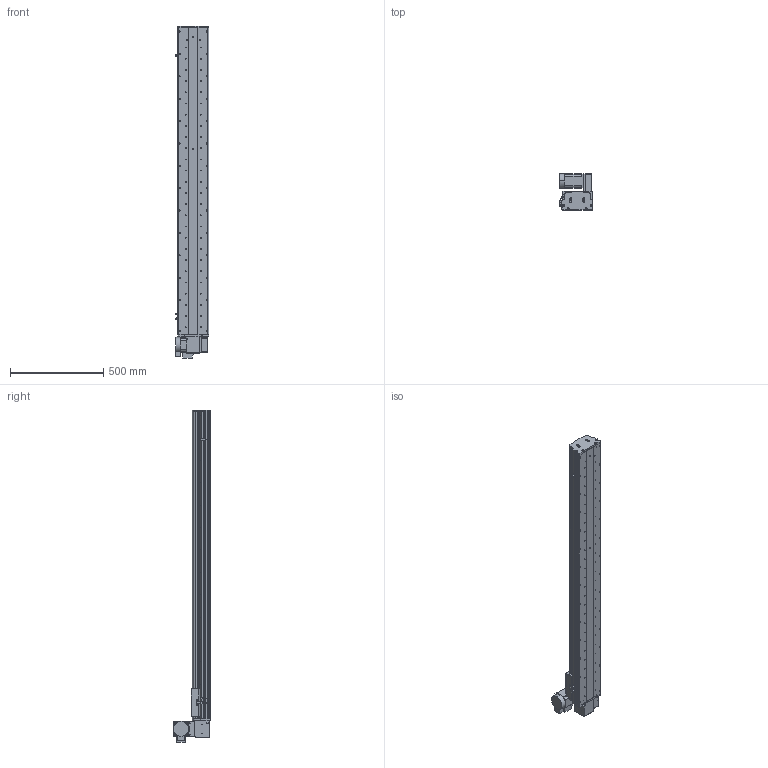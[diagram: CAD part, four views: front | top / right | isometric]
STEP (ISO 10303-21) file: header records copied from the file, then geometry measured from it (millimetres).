
FILE_DESCRIPTION (( 'STEP AP214' ), '1' );
FILE_NAME ('KSD165B-S1400-MRU-CM .STEP', '2017-10-17T02:48:46', ( '微软用户' ), ( '微软中国' ), 'SwSTEP 2.0', 'SolidWorks 2014', '' );
FILE_SCHEMA (( 'AUTOMOTIVE_DESIGN' ));
Length unit declared in the file: millimetre
Products named in the file (17): 130宽模组马达安装板连板上下折丝杆同步带; 130宽模组保护罩上下左右折-同步带; HTPA26S5M250-A-H8 750W萇儂蚚; HTPA26S5M250-A-H8 400W萇儂蚚 ; KSD165模组-同步带防尘盖1-1400行程; KSD165模组同步带底板-1400行程; 拸秶雄ん750W侜督萇儂; 165宽马达安装板同步带右; U倰嫖萇假蚾璃; U倰嫖萇EEㄜSX672; 覜茼え68遵圉猾敕; KSD165模组-同步带-防撞垫2; KSD165模组同步带-防撞垫1; KSD165耀郪-ヶ傷啣1-肮祭湍; KSD165模组-后端板1-同步带; KSD165模组-同步带滑动座-最新版; KSD165B-S1400-MRU-CM 
Assembly tree (20 placements, depth 2):
  KSD165B-S1400-MRU-CM 
    KSD165模组-同步带滑动座-最新版
    KSD165模组-后端板1-同步带
    KSD165耀郪-ヶ傷啣1-肮祭湍
    KSD165模组同步带-防撞垫1
    KSD165模组-同步带-防撞垫2
    覜茼え68遵圉猾敕
    U倰嫖萇EEㄜSX672  x3
    U倰嫖萇假蚾璃  x3
    165宽马达安装板同步带右
    拸秶雄ん750W侜督萇儂
    KSD165模组同步带底板-1400行程
    KSD165模组-同步带防尘盖1-1400行程
    HTPA26S5M250-A-H8 400W萇儂蚚 
    HTPA26S5M250-A-H8 750W萇儂蚚
    130宽模组保护罩上下左右折-同步带
    130宽模组马达安装板连板上下折丝杆同步带
Bounding box: 178.7 x 198 x 1780.5 mm (x, y, z)
Volume: 9723517.4 mm3; surface area: 2264898.5 mm2
Topology: 21 solids, 21 shells, 2029 faces, 5742 edges, 3752 vertices
Faces by surface type: cylinder 1323, plane 594, cone 112
Entity records: 66572 total; most frequent: CARTESIAN_POINT 13648, DIRECTION 10882, ORIENTED_EDGE 10144, EDGE_CURVE 5072, AXIS2_PLACEMENT_3D 4280, VERTEX_POINT 3344, CIRCLE 2448, LINE 2322
